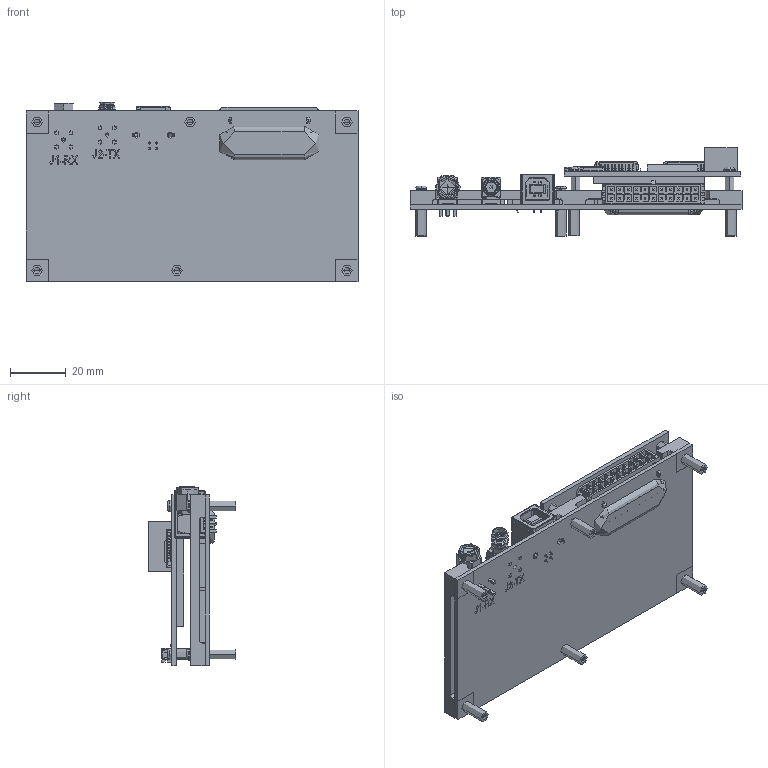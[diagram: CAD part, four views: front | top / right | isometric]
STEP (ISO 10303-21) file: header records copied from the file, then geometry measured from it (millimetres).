
FILE_DESCRIPTION (( 'STEP AP214' ), '1' );
FILE_NAME ('NSL EyeStar-D2 Duplex EM.STEP', '2018-05-23T21:30:39', ( '' ), ( '' ), 'SwSTEP 2.0', 'SolidWorks 2014', '' );
FILE_SCHEMA (( 'AUTOMOTIVE_DESIGN' ));
Length unit declared in the file: inch
Products named in the file (43): Screw, 2-56 PanTorx; Connector, SMA-J-P-X-RA-TH1; Screw, 2-56 PanTorx_0.1875; Connector, SMA Plug RA Thru Amphenol 132135; NSL EyeStar-D2 Daughterboard v10_Default FM; 91125A018_18-8 SS FEM THRDED ROUND STANDOFF 3-8in - 3.9mmD_91125A018; MicroSD, Wurth Socket Hinged 693072010801; Connector, DF13-10P-1.25H; Connector, DF13-11P-1.25H; Duplex Processor PC Board v4; Simplex Duplex Shield v3; USB, Type B, Thru, RA Molex 670680000; NSL Duplex Radio Rev 10; Connector, Molex 430452201 22-Pin RA Header; NSL EyeStar-D2 Duplex EM; 13-64 in standoff_1
Assembly tree (35 placements, depth 3):
  Connector, SMA-J-P-X-RA-TH1
  Connector, SMA Plug RA Thru Amphenol 132135
  91125A018_18-8 SS FEM THRDED ROUND STANDOFF 3-8in - 3.9mmD_91125A018
  MicroSD, Wurth Socket Hinged 693072010801
  91125A018_18-8 SS FEM THRDED ROUND STANDOFF 3-8in - 3.9mmD_91125A018
Bounding box: 118.7 x 31.42 x 64.05 mm (x, y, z)
Volume: 55262.3 mm3; surface area: 52228.1 mm2
Topology: 43 solids, 58 shells, 5254 faces, 13784 edges, 8761 vertices
Faces by surface type: plane 3203, cylinder 1504, cone 342, bspline 132, torus 73
Entity records: 151538 total; most frequent: CARTESIAN_POINT 37219, ORIENTED_EDGE 22728, DIRECTION 21050, EDGE_CURVE 11364, LINE 9020, VECTOR 9020, VERTEX_POINT 7252, AXIS2_PLACEMENT_3D 6015
